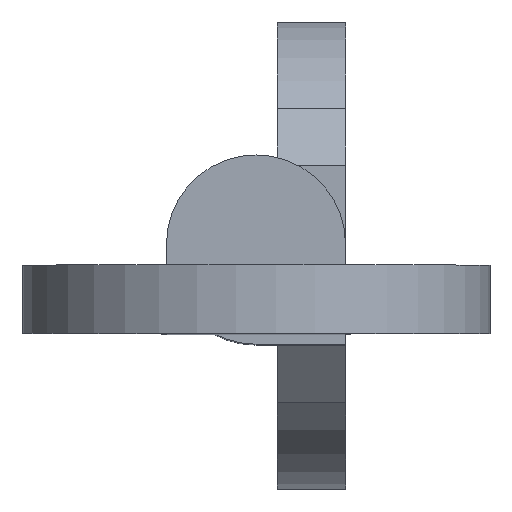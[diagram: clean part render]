
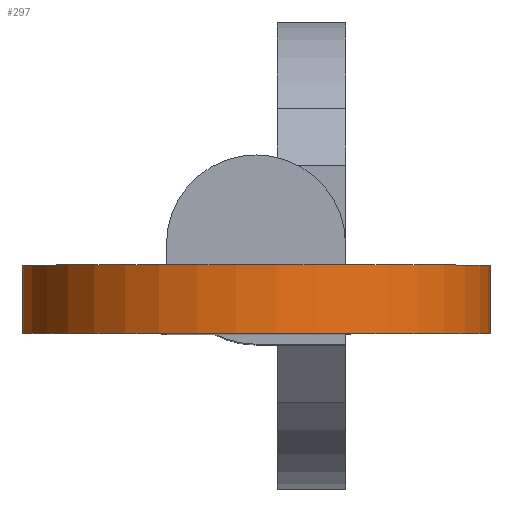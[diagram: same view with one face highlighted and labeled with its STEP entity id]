
A CAD part, top view. The second image highlights one B-rep face of the part: STEP entity #297.
In plain terms, the highlighted cylindrical face has radius 5.205 mm (diameter 10.41 mm), a partial arc.
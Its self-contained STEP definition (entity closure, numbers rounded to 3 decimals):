
#1 = DIRECTION ( 'NONE',  ( 0., -1., 0. ) ) ;
#21 = CIRCLE ( 'NONE', #194, 5.205 ) ;
#34 = DIRECTION ( 'NONE',  ( 0., -1., 0. ) ) ;
#67 = DIRECTION ( 'NONE',  ( 0., 0., -1. ) ) ;
#87 = DIRECTION ( 'NONE',  ( 0., -1., 0. ) ) ;
#128 = AXIS2_PLACEMENT_3D ( 'NONE', #468, #1, #67 ) ;
#130 = CARTESIAN_POINT ( 'NONE',  ( 3.264, -1.99, 72.145 ) ) ;
#194 = AXIS2_PLACEMENT_3D ( 'NONE', #423, #87, #359 ) ;
#197 = CARTESIAN_POINT ( 'NONE',  ( 3.264, -0.47, 72.145 ) ) ;
#208 = LINE ( 'NONE', #867, #431 ) ;
#216 = ORIENTED_EDGE ( 'NONE', *, *, #602, .F. ) ;
#233 = VERTEX_POINT ( 'NONE', #833 ) ;
#261 = DIRECTION ( 'NONE',  ( 0., -1., 0. ) ) ;
#272 = VERTEX_POINT ( 'NONE', #294 ) ;
#285 = CARTESIAN_POINT ( 'NONE',  ( 3.264, -0.47, 72.145 ) ) ;
#294 = CARTESIAN_POINT ( 'NONE',  ( -3.264, -0.47, 72.145 ) ) ;
#297 = ADVANCED_FACE ( 'NONE', ( #827 ), #636, .T. ) ;
#305 = DIRECTION ( 'NONE',  ( 0., 0., -1. ) ) ;
#314 = EDGE_LOOP ( 'NONE', ( #606, #216, #843, #482 ) ) ;
#328 = EDGE_CURVE ( 'NONE', #532, #272, #21, .T. ) ;
#359 = DIRECTION ( 'NONE',  ( 0., 0., -1. ) ) ;
#408 = LINE ( 'NONE', #285, #794 ) ;
#423 = CARTESIAN_POINT ( 'NONE',  ( 0., -0.47, 76.2 ) ) ;
#431 = VECTOR ( 'NONE', #261, 1000. ) ;
#468 = CARTESIAN_POINT ( 'NONE',  ( 0., -1.99, 76.2 ) ) ;
#478 = VERTEX_POINT ( 'NONE', #130 ) ;
#482 = ORIENTED_EDGE ( 'NONE', *, *, #567, .T. ) ;
#528 = CIRCLE ( 'NONE', #128, 5.205 ) ;
#532 = VERTEX_POINT ( 'NONE', #197 ) ;
#533 = EDGE_CURVE ( 'NONE', #478, #233, #528, .T. ) ;
#567 = EDGE_CURVE ( 'NONE', #272, #233, #208, .T. ) ;
#602 = EDGE_CURVE ( 'NONE', #532, #478, #408, .T. ) ;
#606 = ORIENTED_EDGE ( 'NONE', *, *, #533, .F. ) ;
#617 = CARTESIAN_POINT ( 'NONE',  ( 0., -0.47, 76.2 ) ) ;
#636 = CYLINDRICAL_SURFACE ( 'NONE', #700, 5.205 ) ;
#677 = DIRECTION ( 'NONE',  ( 0., -1., 0. ) ) ;
#700 = AXIS2_PLACEMENT_3D ( 'NONE', #617, #34, #305 ) ;
#794 = VECTOR ( 'NONE', #677, 1000. ) ;
#827 = FACE_OUTER_BOUND ( 'NONE', #314, .T. ) ;
#833 = CARTESIAN_POINT ( 'NONE',  ( -3.264, -1.99, 72.145 ) ) ;
#843 = ORIENTED_EDGE ( 'NONE', *, *, #328, .T. ) ;
#867 = CARTESIAN_POINT ( 'NONE',  ( -3.264, -0.47, 72.145 ) ) ;
